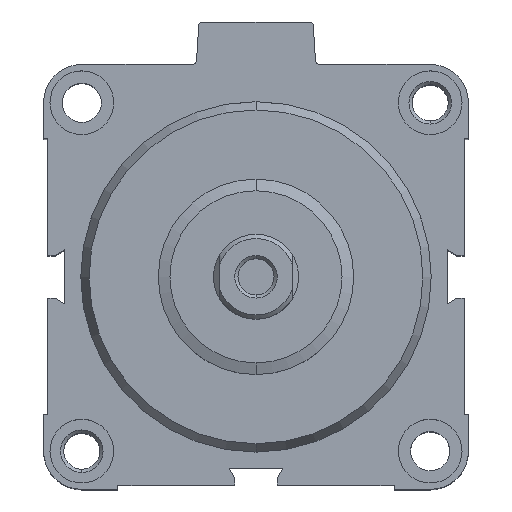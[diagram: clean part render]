
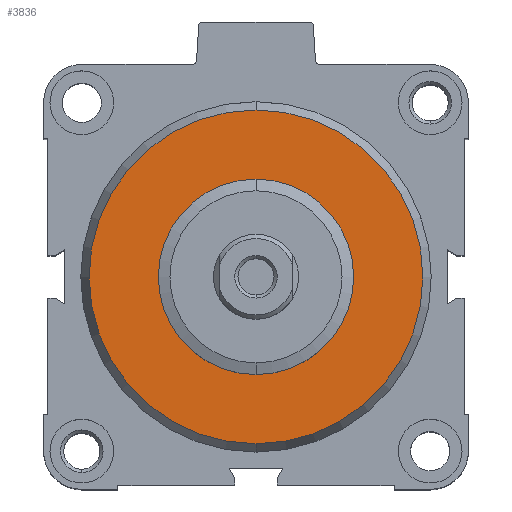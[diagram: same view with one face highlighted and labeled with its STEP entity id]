
A CAD part, top view. The second image highlights one B-rep face of the part: STEP entity #3836.
In plain terms, the highlighted planar face has unit normal (0, 0, 1).
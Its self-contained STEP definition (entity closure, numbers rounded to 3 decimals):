
#1341=CARTESIAN_POINT('',(0.,0.,-0.2));
#1342=DIRECTION('',(0.,0.,-1.));
#1343=DIRECTION('',(0.,-1.,0.));
#1344=AXIS2_PLACEMENT_3D('',#1341,#1342,#1343);
#1346=CARTESIAN_POINT('',(0.,0.,-0.2));
#1347=DIRECTION('',(0.,0.,1.));
#1348=DIRECTION('',(0.,-1.,0.));
#1349=AXIS2_PLACEMENT_3D('',#1346,#1347,#1348);
#1351=CARTESIAN_POINT('',(0.,0.,-0.2));
#1352=DIRECTION('',(0.,0.,-1.));
#1353=DIRECTION('',(0.,1.,0.));
#1354=AXIS2_PLACEMENT_3D('',#1351,#1352,#1353);
#1356=CARTESIAN_POINT('',(0.,0.,-0.2));
#1357=DIRECTION('',(0.,0.,-1.));
#1358=DIRECTION('',(0.,-1.,0.));
#1359=AXIS2_PLACEMENT_3D('',#1356,#1357,#1358);
#1765=CARTESIAN_POINT('',(0.,23.,-0.2));
#1766=VERTEX_POINT('',#1765);
#1767=CARTESIAN_POINT('',(0.,-23.,-0.2));
#1768=VERTEX_POINT('',#1767);
#1858=CARTESIAN_POINT('',(0.,-39.287,-0.2));
#1860=VERTEX_POINT('',#1858);
#1862=CARTESIAN_POINT('',(0.,39.287,-0.2));
#1864=VERTEX_POINT('',#1862);
#3821=CARTESIAN_POINT('',(0.,0.,-0.2));
#3822=DIRECTION('',(0.,0.,1.));
#3823=DIRECTION('',(0.,1.,0.));
#3824=AXIS2_PLACEMENT_3D('',#3821,#3822,#3823);
#3825=PLANE('',#3824);
#3826=ORIENTED_EDGE('',*,*,#3803,.T.);
#3827=ORIENTED_EDGE('',*,*,#3814,.F.);
#3828=EDGE_LOOP('',(#3826,#3827));
#3829=FACE_OUTER_BOUND('',#3828,.F.);
#3831=ORIENTED_EDGE('',*,*,#3830,.F.);
#3833=ORIENTED_EDGE('',*,*,#3832,.F.);
#3834=EDGE_LOOP('',(#3831,#3833));
#3835=FACE_BOUND('',#3834,.F.);
#3836=ADVANCED_FACE('',(#3829,#3835),#3825,.T.);
#1345=CIRCLE('',#1344,39.287);
#1350=CIRCLE('',#1349,39.287);
#1355=CIRCLE('',#1354,23.);
#1360=CIRCLE('',#1359,23.);
#3803=EDGE_CURVE('',#1860,#1864,#1345,.T.);
#3814=EDGE_CURVE('',#1860,#1864,#1350,.T.);
#3830=EDGE_CURVE('',#1766,#1768,#1355,.T.);
#3832=EDGE_CURVE('',#1768,#1766,#1360,.T.);
